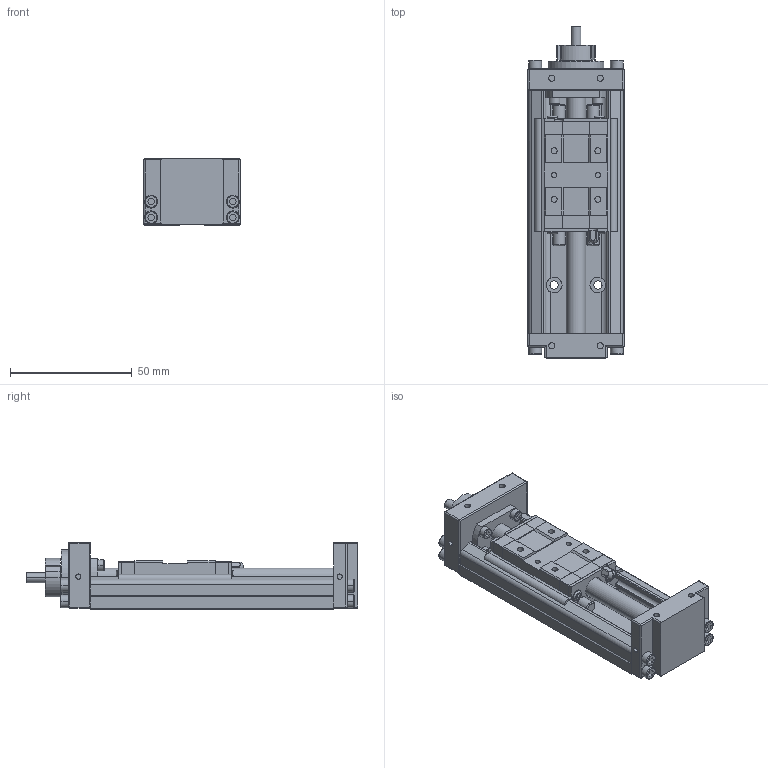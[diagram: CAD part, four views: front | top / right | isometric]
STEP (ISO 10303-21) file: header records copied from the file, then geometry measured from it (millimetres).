
FILE_DESCRIPTION(('no description'),'unknown implementation level');
FILE_NAME('KK4001P100A1H0000_FILE_1.stp',' ',('HIWIN GmbH'),('CADClick - KiM GmbH - www.kimweb.de'),'unknown preprocess','ACIS','unknown authorization');
FILE_SCHEMA(('automotive_design'));
Length unit declared in the file: millimetre
Products named in the file (2): KK40_FILE; KK4001P100A1H0000_FILE
Bounding box: 40 x 136.5 x 27.5 mm (x, y, z)
Volume: 70619.6 mm3; surface area: 31170.5 mm2
Topology: 2 solids, 14 shells, 717 faces, 1811 edges, 1166 vertices
Faces by surface type: plane 444, cylinder 229, torus 42, sphere 2
Entity records: 42802 total; most frequent: CARTESIAN_POINT 4368, DIRECTION 3810, STYLED_ITEM 3696, PRESENTATION_STYLE_ASSIGNMENT 3696, COLOUR_RGB 3696, ORIENTED_EDGE 3622, EDGE_CURVE 1811, CURVE_STYLE 1811
